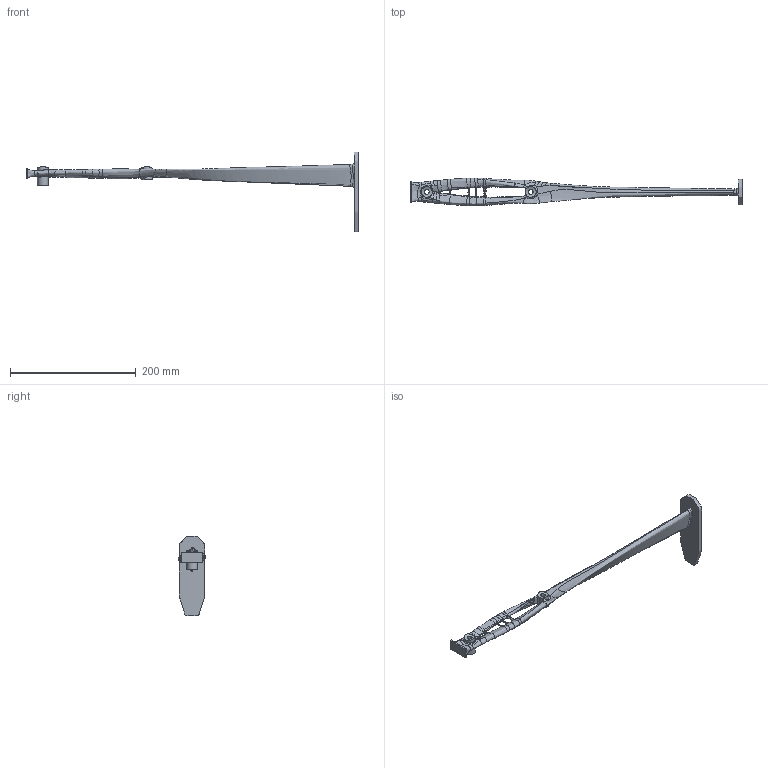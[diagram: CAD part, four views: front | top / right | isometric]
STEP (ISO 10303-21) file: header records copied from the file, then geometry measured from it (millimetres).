
FILE_DESCRIPTION(/* description */ (''),/* implementation_level */ '2;1');
FILE_NAME(/* name */ 'C:/Users/Samuel J. Greear/Pictures/stock-testing/blog1/Generative Test S1 with Pillars v3 v1.step',/* time_stamp */ '2019-11-26T17:49:23-07:00',/* author */ (''),/* organization */ (''),/* preprocessor_version */ 'ST-DEVELOPER v18',/* originating_system */ 'Autodesk Translation Framework v8.12.0.6',/* authorisation */ '');
FILE_SCHEMA (('AUTOMOTIVE_DESIGN { 1 0 10303 214 3 1 1 }'));
Products named in the file (1): Generative Test S1 with Pillars v3
Bounding box: 527.05 x 44.03 x 127 mm (x, y, z)
Volume: 148994.8 mm3; surface area: 50923.5 mm2
Topology: 1 solids, 1 shells, 161 faces, 373 edges, 209 vertices
Faces by surface type: bspline 135, plane 19, cylinder 7
Full cylindrical faces by diameter (mm): 7.62 x2, 17.145 x3
Entity records: 35011 total; most frequent: CARTESIAN_POINT 32474, ORIENTED_EDGE 746, EDGE_CURVE 373, B_SPLINE_CURVE_WITH_KNOTS 347, VERTEX_POINT 209, EDGE_LOOP 170, FACE_OUTER_BOUND 161, ADVANCED_FACE 161
